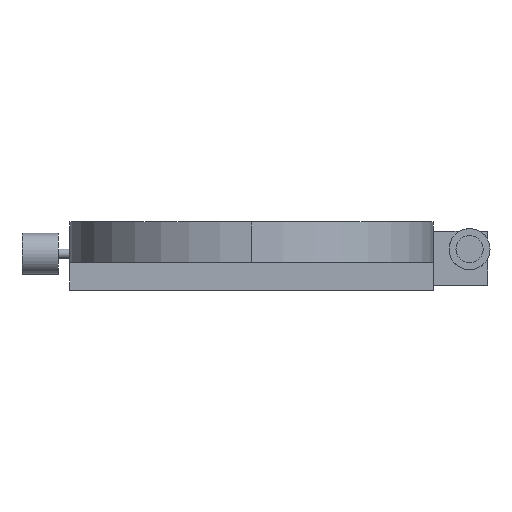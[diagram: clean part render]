
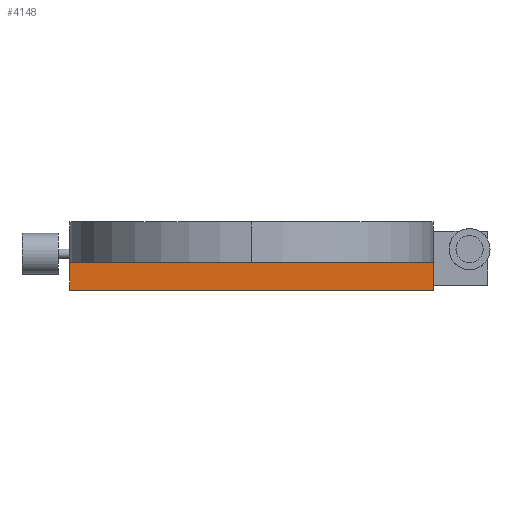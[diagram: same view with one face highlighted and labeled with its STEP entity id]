
A CAD part, left-side view. The second image highlights one B-rep face of the part: STEP entity #4148.
In plain terms, the highlighted planar face has unit normal (-1, 0, 0).
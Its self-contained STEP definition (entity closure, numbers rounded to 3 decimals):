
#101 = VECTOR ( 'NONE', #2109, 1000. ) ;
#405 = CARTESIAN_POINT ( 'NONE',  ( -80., -80., 12. ) ) ;
#450 = LINE ( 'NONE', #2954, #1838 ) ;
#543 = EDGE_CURVE ( 'NONE', #2358, #3521, #1293, .T. ) ;
#572 = DIRECTION ( 'NONE',  ( 0., -1., 0. ) ) ;
#748 = EDGE_CURVE ( 'NONE', #1564, #1839, #4496, .T. ) ;
#816 = CARTESIAN_POINT ( 'NONE',  ( -80., -80., 12. ) ) ;
#878 = LINE ( 'NONE', #2010, #2447 ) ;
#935 = DIRECTION ( 'NONE',  ( 0., -1., 0. ) ) ;
#1057 = DIRECTION ( 'NONE',  ( 1., 0., 0. ) ) ;
#1182 = DIRECTION ( 'NONE',  ( 0., 0., 1. ) ) ;
#1293 = LINE ( 'NONE', #2301, #4555 ) ;
#1364 = DIRECTION ( 'NONE',  ( 0., 1., 0. ) ) ;
#1513 = EDGE_CURVE ( 'NONE', #3521, #2882, #3691, .T. ) ;
#1515 = CARTESIAN_POINT ( 'NONE',  ( -80., 0., 12. ) ) ;
#1564 = VERTEX_POINT ( 'NONE', #2578 ) ;
#1608 = ORIENTED_EDGE ( 'NONE', *, *, #2310, .T. ) ;
#1628 = CARTESIAN_POINT ( 'NONE',  ( -80., -80., 0. ) ) ;
#1753 = EDGE_LOOP ( 'NONE', ( #3334, #4255, #1844, #1608, #3619 ) ) ;
#1838 = VECTOR ( 'NONE', #4027, 1000. ) ;
#1839 = VERTEX_POINT ( 'NONE', #1515 ) ;
#1844 = ORIENTED_EDGE ( 'NONE', *, *, #748, .F. ) ;
#2010 = CARTESIAN_POINT ( 'NONE',  ( -80., 80., 12. ) ) ;
#2038 = CARTESIAN_POINT ( 'NONE',  ( -80., 80., 12. ) ) ;
#2109 = DIRECTION ( 'NONE',  ( 0., -1., 0. ) ) ;
#2301 = CARTESIAN_POINT ( 'NONE',  ( -80., 0., 0. ) ) ;
#2310 = EDGE_CURVE ( 'NONE', #1564, #2358, #450, .T. ) ;
#2358 = VERTEX_POINT ( 'NONE', #4516 ) ;
#2447 = VECTOR ( 'NONE', #935, 1000. ) ;
#2578 = CARTESIAN_POINT ( 'NONE',  ( -80., 80., 12. ) ) ;
#2882 = VERTEX_POINT ( 'NONE', #405 ) ;
#2954 = CARTESIAN_POINT ( 'NONE',  ( -80., 80., 12. ) ) ;
#3181 = CARTESIAN_POINT ( 'NONE',  ( -80., 80., 12. ) ) ;
#3334 = ORIENTED_EDGE ( 'NONE', *, *, #1513, .T. ) ;
#3521 = VERTEX_POINT ( 'NONE', #1628 ) ;
#3619 = ORIENTED_EDGE ( 'NONE', *, *, #543, .T. ) ;
#3691 = LINE ( 'NONE', #816, #4349 ) ;
#4027 = DIRECTION ( 'NONE',  ( 0., 0., -1. ) ) ;
#4148 = ADVANCED_FACE ( 'NONE', ( #4596 ), #4525, .F. ) ;
#4255 = ORIENTED_EDGE ( 'NONE', *, *, #4380, .F. ) ;
#4349 = VECTOR ( 'NONE', #1182, 1000. ) ;
#4380 = EDGE_CURVE ( 'NONE', #1839, #2882, #878, .T. ) ;
#4496 = LINE ( 'NONE', #2038, #101 ) ;
#4516 = CARTESIAN_POINT ( 'NONE',  ( -80., 80., 0. ) ) ;
#4525 = PLANE ( 'NONE',  #4598 ) ;
#4555 = VECTOR ( 'NONE', #572, 1000. ) ;
#4596 = FACE_OUTER_BOUND ( 'NONE', #1753, .T. ) ;
#4598 = AXIS2_PLACEMENT_3D ( 'NONE', #3181, #1057, #1364 ) ;
